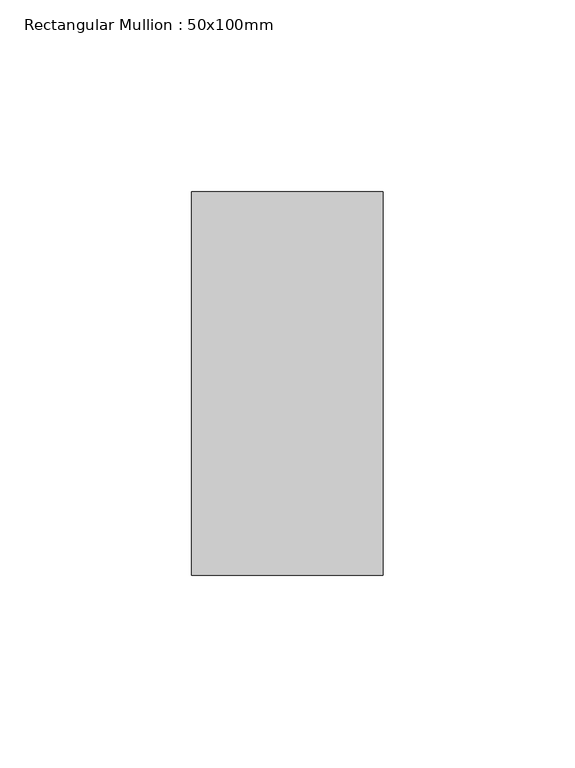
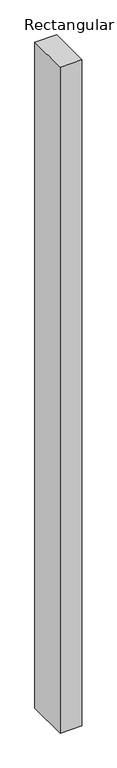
"""IFC4 building model written with IfcOpenShell, lengths in millimetres: member geometry, Rectangular Mullion : 50x100mm."""

import ifcopenshell
import ifcopenshell.guid

model = None  # the IFC model being written
_history = None  # IfcOwnerHistory: only IFC2X3 demands one
_inside = {}  # id of a spatial element -> (the spatial element, [elements in it])
_under = {}  # id of a project, library or spatial element -> (it, [spatial elements below it])
_declared = {}  # id of a project -> (the project, [libraries it declares])
_typed = {}  # id of a type object -> (the type object, [elements of that type])
_made_of = {}  # id of a material, layer set ... -> (it, [elements and type objects made of it])


def new_model(schema):
    """Start an empty IFC model of exactly this schema.

    Asked for "IFC4X3", IfcOpenShell would pick the latest addendum, in which some entities
    have other attributes; the version numbers below select the first issue.
    IFC2X3 requires an IfcOwnerHistory on every rooted entity: one is made here for all.
    """
    global model, _history
    if schema == "IFC4X3":
        model = ifcopenshell.file(schema_version=(4, 3, 0, 0))
    else:
        model = ifcopenshell.file(schema=schema)
    _inside.clear()
    _under.clear()
    _declared.clear()
    _typed.clear()
    _made_of.clear()
    _history = None
    if model.schema == "IFC2X3":
        org = make("IfcOrganization", Name="unknown")
        user = make(
            "IfcPersonAndOrganization",
            ThePerson=make("IfcPerson", FamilyName="unknown"),
            TheOrganization=org,
        )
        app = make(
            "IfcApplication",
            ApplicationDeveloper=org,
            Version="unknown",
            ApplicationFullName="unknown",
            ApplicationIdentifier="unknown",
        )
        _history = make(
            "IfcOwnerHistory",
            OwningUser=user,
            OwningApplication=app,
            ChangeAction="ADDED",
            CreationDate=0,
        )
    return model


def make(cls, **values):
    """One entity of the class cls with the attributes given. An attribute that is None is left unset."""
    return model.create_entity(
        cls, **{name: value for name, value in values.items() if value is not None}
    )


def rooted(cls, **values):
    """An entity with a GlobalId (a new one), such as an element, a storey or a relation."""
    return make(cls, GlobalId=ifcopenshell.guid.new(), OwnerHistory=_history, **values)


def si_unit(unit_type, name, prefix=None):
    """IfcSIUnit, for example si_unit("LENGTHUNIT", "METRE", prefix="MILLI")."""
    return make("IfcSIUnit", UnitType=unit_type, Prefix=prefix, Name=name)


def assignment(units):
    """IfcUnitAssignment: the units of a project."""
    return None if units is None else make("IfcUnitAssignment", Units=units)


def point(xyz):
    """IfcCartesianPoint."""
    return None if xyz is None else make("IfcCartesianPoint", Coordinates=xyz)


def direction(xyz):
    """IfcDirection."""
    return None if xyz is None else make("IfcDirection", DirectionRatios=xyz)


def frame(location, z_axis=None, x_axis=None):
    """IfcAxis2Placement3D, a coordinate frame: its origin and axes. An axis left out is left unset."""
    return make(
        "IfcAxis2Placement3D",
        Location=point(location),
        Axis=direction(z_axis),
        RefDirection=direction(x_axis),
    )


def origin():
    """The frame at (0, 0, 0) with its axes left unset."""
    return frame((0.0, 0.0, 0.0))


def place(relative_to, where):
    """IfcLocalPlacement: puts the frame where relative to a parent placement (None: the world)."""
    return make(
        "IfcLocalPlacement", PlacementRelTo=relative_to, RelativePlacement=where
    )


def context(
    kind, dimensions, precision=None, world=None, true_north=None, identifier=None
):
    """IfcGeometricRepresentationContext, for example the 3D "Model" context."""
    return make(
        "IfcGeometricRepresentationContext",
        ContextIdentifier=identifier,
        ContextType=kind,
        CoordinateSpaceDimension=dimensions,
        Precision=precision,
        WorldCoordinateSystem=world,
        TrueNorth=true_north,
    )


def project(units=None, contexts=None):
    """IfcProject with its units and contexts."""
    return rooted(
        "IfcProject",
        Name="project",
        RepresentationContexts=contexts,
        UnitsInContext=assignment(units),
    )


def spatial(cls, under=None, at=None, **own):
    """A site, building, storey or space (cls), placed at a placement, below another one or the project."""
    s = rooted(cls, ObjectPlacement=at, **own)
    if under is not None:
        _under.setdefault(under.id(), (under, []))[1].append(s)
    return s


def polyline(points):
    """IfcPolyline through the points."""
    return make("IfcPolyline", Points=[point(p) for p in points])


def outline(outer, holes=None, kind="AREA"):
    """IfcArbitraryClosedProfileDef: a profile drawn as a closed curve; with holes, ...WithVoids."""
    if holes is None:
        return make("IfcArbitraryClosedProfileDef", ProfileType=kind, OuterCurve=outer)
    return make(
        "IfcArbitraryProfileDefWithVoids",
        ProfileType=kind,
        OuterCurve=outer,
        InnerCurves=holes,
    )


def extrude(swept, where, along, depth):
    """IfcExtrudedAreaSolid: the profile swept, set in the frame where, extruded along a direction by depth."""
    return make(
        "IfcExtrudedAreaSolid",
        SweptArea=swept,
        Position=where,
        ExtrudedDirection=direction(along),
        Depth=depth,
    )


def shape(context_of_items, identifier, shape_type, items):
    """IfcShapeRepresentation: the items that make up one representation, for example the "Body"."""
    return make(
        "IfcShapeRepresentation",
        ContextOfItems=context_of_items,
        RepresentationIdentifier=identifier,
        RepresentationType=shape_type,
        Items=items,
    )


def source(mapping_origin, context_of_items, identifier, shape_type, items):
    """IfcRepresentationMap: a shape defined once, which mapped items show again and again."""
    return make(
        "IfcRepresentationMap",
        MappingOrigin=mapping_origin,
        MappedRepresentation=shape(context_of_items, identifier, shape_type, items),
    )


def transform(
    local_origin,
    x_axis=None,
    y_axis=None,
    z_axis=None,
    scale=None,
    scale2=None,
    scale3=None,
    uniform=True,
):
    """IfcCartesianTransformationOperator3D, or its non-uniform kind. x_axis, y_axis, z_axis: its Axis1, 2, 3."""
    if uniform:
        return make(
            "IfcCartesianTransformationOperator3D",
            Axis1=direction(x_axis),
            Axis2=direction(y_axis),
            LocalOrigin=point(local_origin),
            Scale=scale,
            Axis3=direction(z_axis),
        )
    return make(
        "IfcCartesianTransformationOperator3DnonUniform",
        Axis1=direction(x_axis),
        Axis2=direction(y_axis),
        LocalOrigin=point(local_origin),
        Scale=scale,
        Axis3=direction(z_axis),
        Scale2=scale2,
        Scale3=scale3,
    )


def mapped(mapping_source, mapping_target):
    """IfcMappedItem: shows the shape of a source again, moved by a transform."""
    return make(
        "IfcMappedItem", MappingSource=mapping_source, MappingTarget=mapping_target
    )


def made_of(thing, what):
    """Note that an element or type object is made of a material, layer set ...; save() writes the relation."""
    if what is not None:
        _made_of.setdefault(what.id(), (what, []))[1].append(thing)
    return thing


def element(
    cls,
    number,
    at=None,
    inside=None,
    cuts=None,
    type_object=None,
    material=None,
    context=None,
    identifier="Body",
    shape_type=None,
    held_by="IfcProductDefinitionShape",
    body=None,
    shapes=None,
    **own,
):
    """One element of the class cls, such as IfcWall. Its Tag is "e" and its number.

    at: its placement. inside: the storey or other place that contains it. cuts: it is an
    opening in that element (IfcRelVoidsElement). A single representation is given by context,
    identifier, shape_type and body (its items); several are given by shapes. held_by: the class
    of the entity that holds the representations. save() writes the other relations.
    """
    e = rooted(cls, Tag="e%d" % number, ObjectPlacement=at, **own)
    if body is not None:
        shapes = [shape(context, identifier, shape_type, body)]
    if shapes is not None:
        e.Representation = make(held_by, Representations=shapes)
    if inside is not None:
        _inside.setdefault(inside.id(), (inside, []))[1].append(e)
    if cuts is not None:
        rooted(
            "IfcRelVoidsElement", RelatingBuildingElement=cuts, RelatedOpeningElement=e
        )
    if type_object is not None:
        _typed.setdefault(type_object.id(), (type_object, []))[1].append(e)
    return made_of(e, material)


def aggregate(whole, parts):
    """IfcRelAggregates: a whole, such as a stair, and the parts it consists of."""
    return rooted("IfcRelAggregates", RelatingObject=whole, RelatedObjects=parts)


def save(model, path):
    """Write the relations noted so far, then the file.

    IfcRelAggregates (storeys below a building ...), IfcRelContainedInSpatialStructure (elements
    in a storey), IfcRelDefinesByType, IfcRelAssociatesMaterial and IfcRelDeclares: one each for
    every whole, place, type object, material and project.
    """
    for whole, parts in _under.values():
        aggregate(whole, parts)
    for where, things in _inside.values():
        rooted(
            "IfcRelContainedInSpatialStructure",
            RelatedElements=things,
            RelatingStructure=where,
        )
    for kind, things in _typed.values():
        rooted("IfcRelDefinesByType", RelatedObjects=things, RelatingType=kind)
    for what, things in _made_of.values():
        rooted("IfcRelAssociatesMaterial", RelatedObjects=things, RelatingMaterial=what)
    for by, libraries in _declared.values():
        rooted("IfcRelDeclares", RelatingContext=by, RelatedDefinitions=libraries)
    model.write(path)


def rectangular_mullion_50x100mm_3990c8f3(model_context):
    return source(origin(), model_context, "Body", "SweptSolid", [
        extrude(outline(polyline([(0.0, 50.0), (0.0, -50.0), (-50.0, -50.0), (-50.0, 50.0), (0.0, 50.0)])), frame((0.0, 0.0, -1614.9354441), z_axis=(0.0, 0.0, 1.0), x_axis=(1.0, 0.0, 0.0)), (0.0, 0.0, 1.0), 1614.9354441),
    ])


if __name__ == "__main__":
    model = new_model("IFC4")
    model_context = context("Model", 3, world=origin())
    ifc_project = project(units=[si_unit("LENGTHUNIT", "METRE", prefix="MILLI")], contexts=[model_context])
    site = spatial("IfcSite", under=ifc_project)
    building = spatial("IfcBuilding", under=site)
    placement = place(None, origin())
    rectangular_mullion_50x100mm_shape = rectangular_mullion_50x100mm_3990c8f3(model_context)
    element("IfcMember", 1, ObjectType="Rectangular Mullion : 50x100mm", at=placement, inside=building, context=model_context, shape_type="MappedRepresentation", body=[
        mapped(rectangular_mullion_50x100mm_shape, transform((0.0, 0.0, 0.0), x_axis=(1.0, 0.0, 0.0), y_axis=(0.0, 1.0, 0.0), z_axis=(0.0, 0.0, 1.0))),
    ])
    save(model, "model.ifc")
